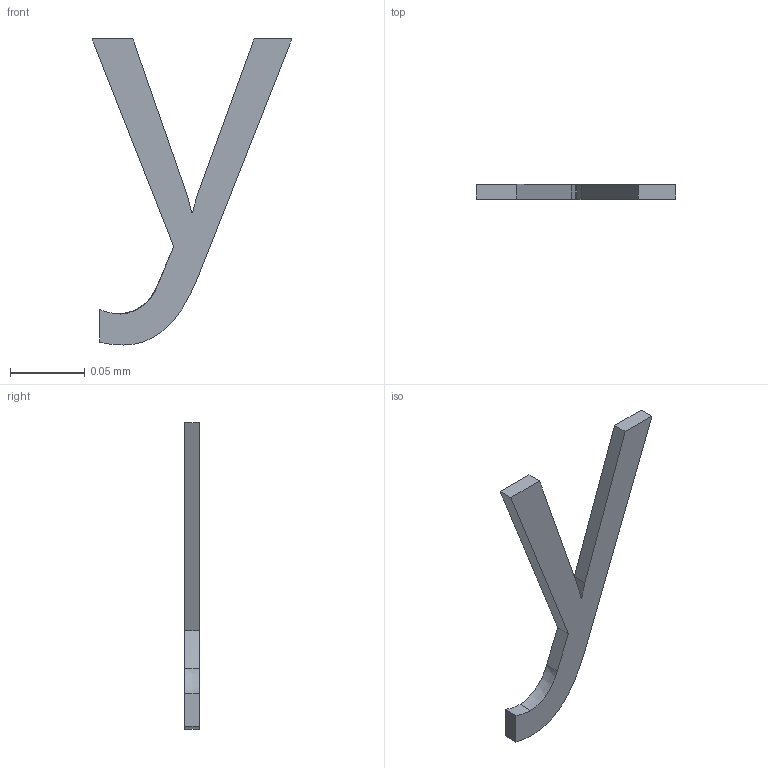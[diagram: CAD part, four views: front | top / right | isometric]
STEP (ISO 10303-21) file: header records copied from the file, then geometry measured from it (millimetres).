
FILE_DESCRIPTION(/* description */ ('STEP AP242 Edition 2','CAx-IF Rec.Pracs.---Representation and Presentation of Product Manufacturing Information (PMI)---4.0---2014-10-13','CAx-IF Rec.Pracs.---3D Tessellated Geometry---0.4---2014-09-14','2;1','CAx-IF Rec.Pracs.---User Defined Attributes---1.5---2016-08-15'),/* implementation_level */ '2;1');
FILE_NAME(/* name */ 'Assembly 1 - SW-TH_3P-L5.8_WSGT-3P-CC~SW-TH_3P-L5.8_WSGT-3P-CC~nxQB (5)',/* time_stamp */ '2026-04-02T09:55:27Z',/* author */ (''),/* organization */ (''),/* preprocessor_version */ 'ST-DEVELOPER v20',/* originating_system */ 'ONSHAPE BY PTC INC, 1.212',/* authorisation */ ' ');
FILE_SCHEMA (('AP242_MANAGED_MODEL_BASED_3D_ENGINEERING_MIM_LF { 1 0 10303 442 3 1 4 }'));
Length unit declared in the file: metre
Products named in the file (1): SW-TH_3P-L5.8_WSGT-3P-CC~SW-TH_3P-L5.8_WSGT-3P-CC~nxQB
Bounding box: 0.13 x 0.01 x 0.2 mm (x, y, z)
Volume: 0 mm3; surface area: 0 mm2
Topology: 1 solids, 1 shells, 17 faces, 45 edges, 30 vertices
Faces by surface type: plane 13, cylinder 2, bspline 1, sphere 1
Entity records: 677 total; most frequent: CARTESIAN_POINT 118, ORIENTED_EDGE 90, DIRECTION 79, EDGE_CURVE 45, LINE 33, VECTOR 33, VERTEX_POINT 30, AXIS2_PLACEMENT_3D 23
